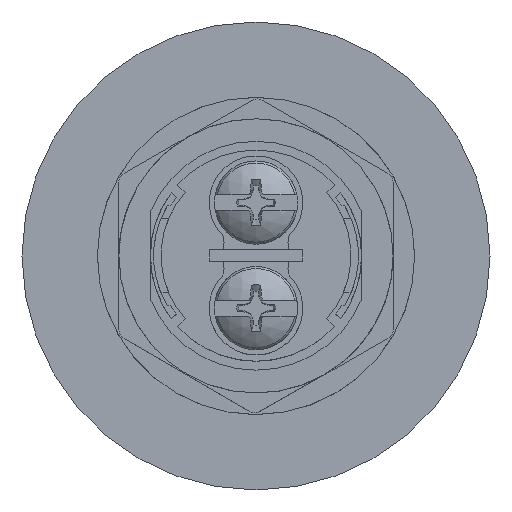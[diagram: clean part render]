
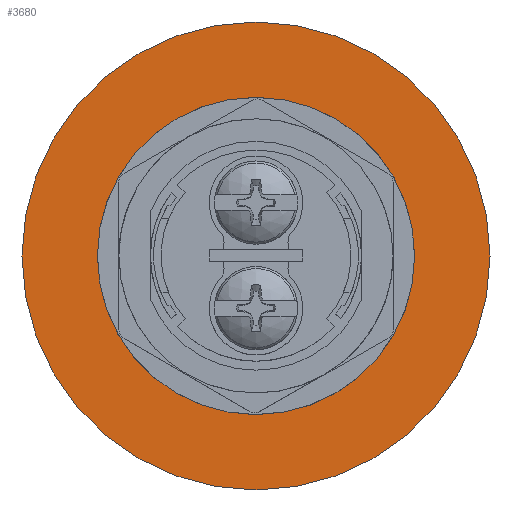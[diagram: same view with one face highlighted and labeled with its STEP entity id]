
A CAD part, top view. The second image highlights one B-rep face of the part: STEP entity #3680.
In plain terms, the highlighted planar face has unit normal (0, 0, 1).
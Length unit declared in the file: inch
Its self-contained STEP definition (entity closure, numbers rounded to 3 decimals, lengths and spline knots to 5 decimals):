
#321=CIRCLE('',#4061,22.5);
#493=FACE_OUTER_BOUND('',#716,.T.);
#716=EDGE_LOOP('',(#2450));
#1494=VERTEX_POINT('',#5560);
#1863=EDGE_CURVE('',#1494,#1494,#321,.T.);
#2450=ORIENTED_EDGE('',*,*,#1863,.T.);
#3555=PLANE('',#4065);
#3680=ADVANCED_FACE('',(#493),#3555,.T.);
#4061=AXIS2_PLACEMENT_3D('',#5561,#4490,#4491);
#4065=AXIS2_PLACEMENT_3D('',#5566,#4498,#4499);
#4490=DIRECTION('center_axis',(0.,0.,1.));
#4491=DIRECTION('ref_axis',(1.,0.,0.));
#4498=DIRECTION('center_axis',(0.,0.,1.));
#4499=DIRECTION('ref_axis',(1.,0.,0.));
#5560=CARTESIAN_POINT('',(-22.5,0.,2.));
#5561=CARTESIAN_POINT('Origin',(0.,0.,2.));
#5566=CARTESIAN_POINT('Origin',(0.,0.,2.));
